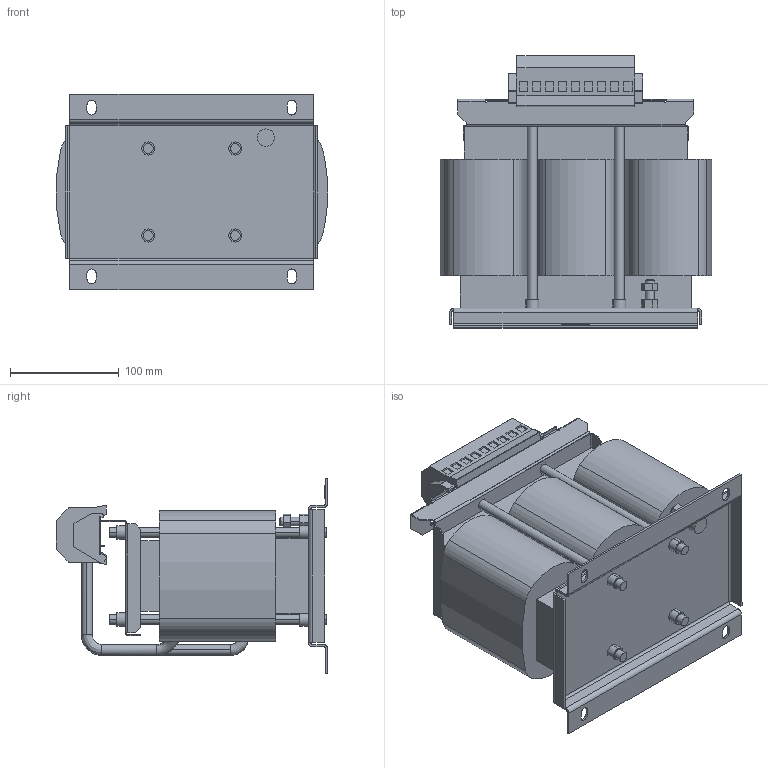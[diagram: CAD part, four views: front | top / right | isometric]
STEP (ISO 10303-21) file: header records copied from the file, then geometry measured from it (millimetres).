
FILE_DESCRIPTION (( 'STEP AP214' ), '1' );
FILE_NAME ('00Z20X0-0018.STEP', '2024-03-11T11:05:12', ( '' ), ( '' ), 'SwSTEP 2.0', 'SolidWorks 2022', '' );
FILE_SCHEMA (( 'AUTOMOTIVE_DESIGN' ));
Length unit declared in the file: millimetre
Products named in the file (1): 00Z20X0-0018
Bounding box: 249.49 x 249.9 x 180 mm (x, y, z)
Volume: 3997241 mm3; surface area: 393678.6 mm2
Topology: 1 solids, 1 shells, 505 faces, 1359 edges, 880 vertices
Faces by surface type: plane 271, cylinder 187, bspline 41, torus 4, cone 2
Entity records: 23444 total; most frequent: CARTESIAN_POINT 10570, ORIENTED_EDGE 2718, DIRECTION 2523, EDGE_CURVE 1359, VERTEX_POINT 880, AXIS2_PLACEMENT_3D 867, LINE 789, VECTOR 789
